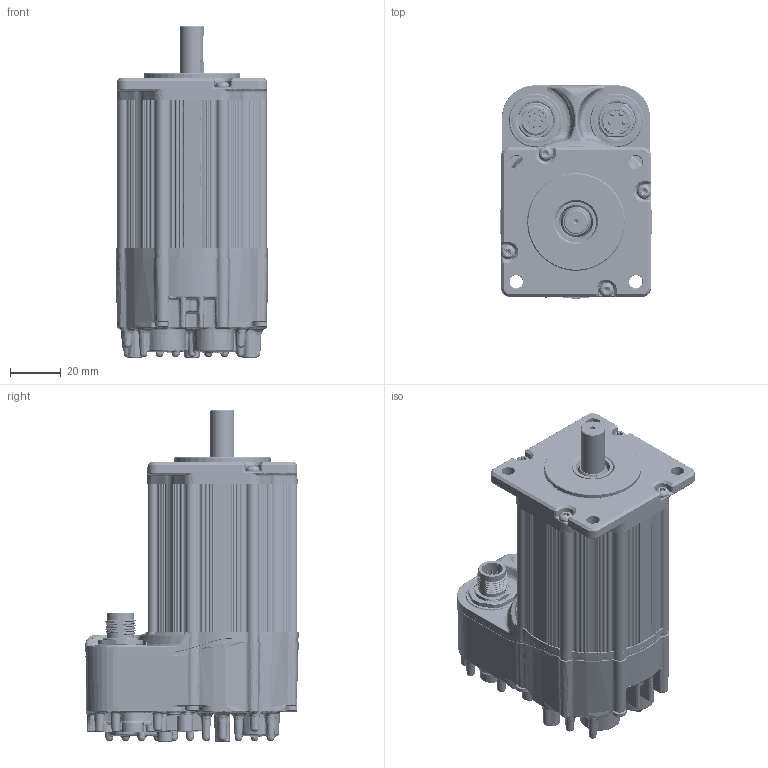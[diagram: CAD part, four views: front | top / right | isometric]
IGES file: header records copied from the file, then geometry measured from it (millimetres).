
Start section: SolidWorks IGES file using analytic representation for surfaces
Global section: file name: C:\TeknicPDM\EtherPath CPM-S\EtherPath CPM-S Customer Files\CPM-S Customer Models\CPMS 232x.igs; native system: SolidWorks 2020; preprocessor: SolidWorks 2020; author: mike_berezny; date: 241007.171732; units: inch
Bounding box: 60.26 x 84.12 x 130.81 mm (x, y, z)
Surface area: 119705.1 mm2 (no closed solid volume)
Topology: 0 solids, 0 shells, 11914 faces, 105772 edges, 105024 vertices
Faces by surface type: bspline 6227, revolution 5687
